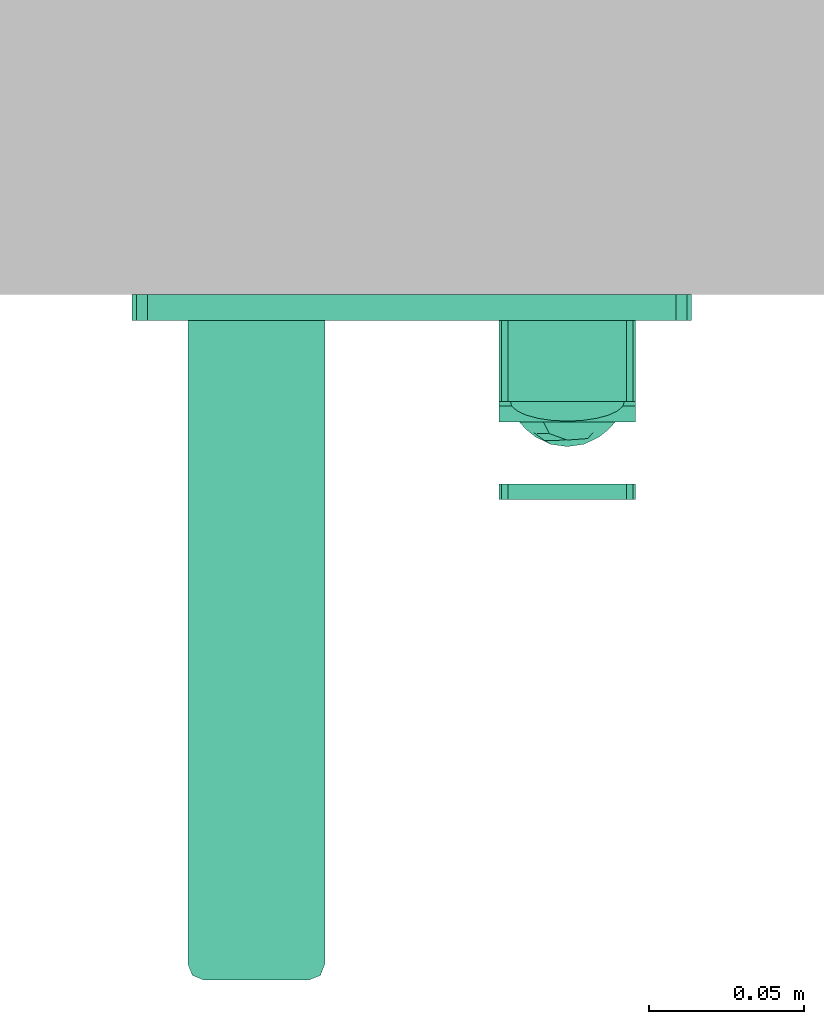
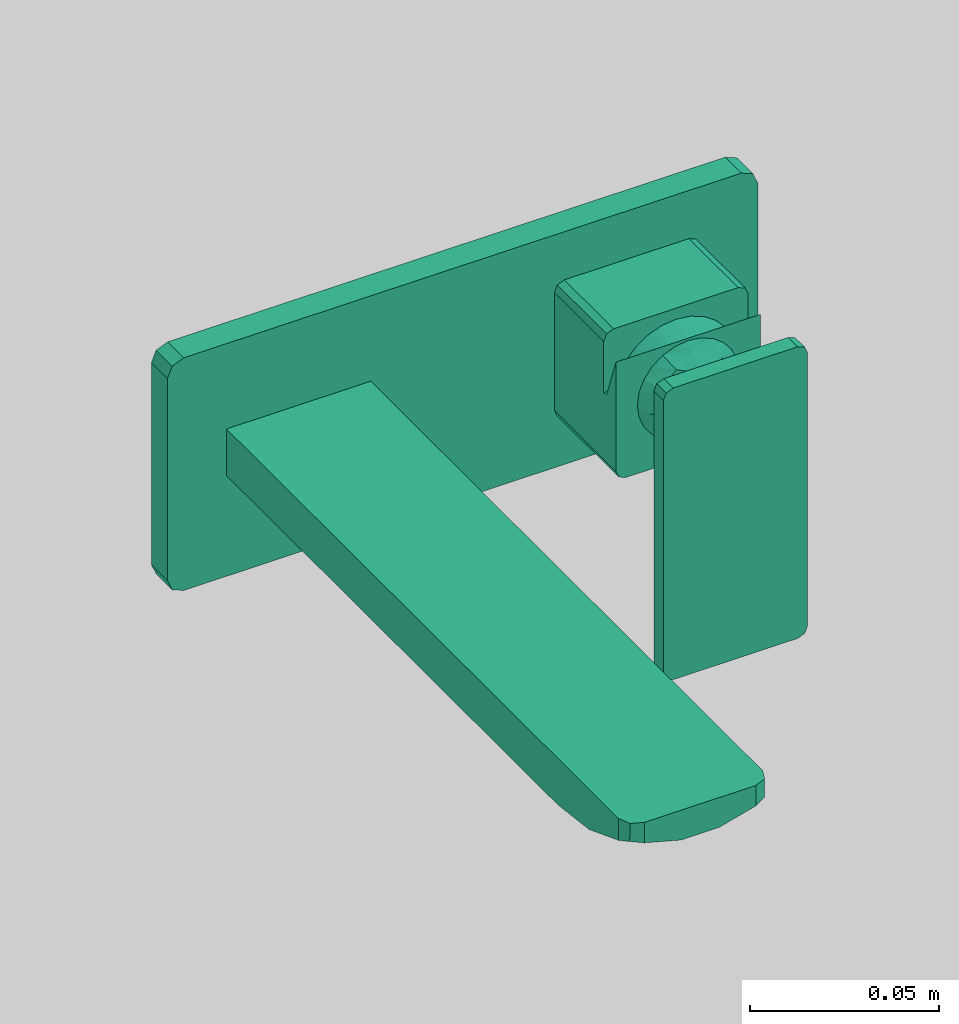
# One storey, part 2 of 2: 1 flow terminal.
"""IFC2X3 building model written with IfcOpenShell, lengths in millimetres."""

from ifc_helpers import new_model, entity, si_unit, converted_unit, derived_unit, direction, frame, origin, place, context, subcontext, project, spatial, faceted_brep, source, transform, mapped, material, type_object, type_shapes, element, save


model = new_model("IFC2X3")

# Units and contexts
model_context = context("Model", 3, precision=0.01, world=origin(), true_north=direction((6.12303176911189e-17, 1.0)))
body_context = subcontext(model_context, "Body", "Model", "MODEL_VIEW")
ifc_project = project(units=[si_unit("LENGTHUNIT", "METRE", prefix="MILLI"), si_unit("AREAUNIT", "SQUARE_METRE"), si_unit("VOLUMEUNIT", "CUBIC_METRE"), converted_unit("PLANEANGLEUNIT", "DEGREE", entity("IfcRatioMeasure", 0.0174532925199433), si_unit("PLANEANGLEUNIT", "RADIAN"), dimensions=[0, 0, 0, 0, 0, 0, 0]), si_unit("MASSUNIT", "GRAM", prefix="KILO"), derived_unit("MASSDENSITYUNIT", [(si_unit("MASSUNIT", "GRAM", prefix="KILO"), 1), (si_unit("LENGTHUNIT", "METRE"), -3)]), derived_unit("MOMENTOFINERTIAUNIT", [(si_unit("LENGTHUNIT", "METRE"), 4)]), si_unit("TIMEUNIT", "SECOND"), si_unit("FREQUENCYUNIT", "HERTZ"), si_unit("THERMODYNAMICTEMPERATUREUNIT", "DEGREE_CELSIUS"), derived_unit("THERMALTRANSMITTANCEUNIT", [(si_unit("MASSUNIT", "GRAM", prefix="KILO"), 1), (si_unit("THERMODYNAMICTEMPERATUREUNIT", "KELVIN"), -1), (si_unit("TIMEUNIT", "SECOND"), -3)]), derived_unit("VOLUMETRICFLOWRATEUNIT", [(si_unit("LENGTHUNIT", "METRE"), 3), (si_unit("TIMEUNIT", "SECOND"), -1)]), si_unit("ELECTRICCURRENTUNIT", "AMPERE"), si_unit("ELECTRICVOLTAGEUNIT", "VOLT"), si_unit("POWERUNIT", "WATT"), si_unit("FORCEUNIT", "NEWTON", prefix="KILO"), si_unit("ILLUMINANCEUNIT", "LUX"), si_unit("LUMINOUSFLUXUNIT", "LUMEN"), si_unit("LUMINOUSINTENSITYUNIT", "CANDELA"), derived_unit("USERDEFINED", [(si_unit("MASSUNIT", "GRAM", prefix="KILO"), -1), (si_unit("LENGTHUNIT", "METRE"), -2), (si_unit("TIMEUNIT", "SECOND"), 3), (si_unit("LUMINOUSFLUXUNIT", "LUMEN"), 1)]), derived_unit("LINEARVELOCITYUNIT", [(si_unit("LENGTHUNIT", "METRE"), 1), (si_unit("TIMEUNIT", "SECOND"), -1)]), si_unit("PRESSUREUNIT", "PASCAL"), derived_unit("USERDEFINED", [(si_unit("LENGTHUNIT", "METRE"), -2), (si_unit("MASSUNIT", "GRAM", prefix="KILO"), 1), (si_unit("TIMEUNIT", "SECOND"), -2)]), derived_unit("LINEARFORCEUNIT", [(si_unit("MASSUNIT", "GRAM", prefix="KILO"), 1), (si_unit("LENGTHUNIT", "METRE"), 1), (si_unit("TIMEUNIT", "SECOND"), -2), (si_unit("LENGTHUNIT", "METRE"), -1)]), derived_unit("PLANARFORCEUNIT", [(si_unit("MASSUNIT", "GRAM", prefix="KILO"), 1), (si_unit("LENGTHUNIT", "METRE"), 1), (si_unit("TIMEUNIT", "SECOND"), -2), (si_unit("LENGTHUNIT", "METRE"), -2)])], contexts=[model_context])

# Site, building, storey
site_placement = place(None, origin())
site = spatial("IfcSite", under=ifc_project, at=site_placement, Name="Default", CompositionType="ELEMENT")
building_placement = place(site_placement, origin())
building = spatial("IfcBuilding", under=site, at=building_placement, CompositionType="ELEMENT")
storey_placement = place(building_placement, origin())
storey = spatial("IfcBuildingStorey", under=building, at=storey_placement, Name="Level 1", CompositionType="ELEMENT", Elevation=0.0)

# Flow terminal
ifc_material = material(Name="Brushed Hard Graphite")
distribution_element_type = type_object("IfcDistributionElementType", Name="FFAS1304-101AL0BT0_REVIT:Acacia E In-Wall Vessel Mixer", material=ifc_material)
shared_shape = source(origin(), body_context, "Body", "Brep", [
    faceted_brep([(44.3128722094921, 2.0, 83.7374934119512), (46.8452722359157, 2.0, 82.6885389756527), (49.0198934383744, 2.0, 81.0198934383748), (50.6885389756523, 2.0, 78.8452722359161), (51.7374934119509, 2.0, 76.3128722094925), (52.0952722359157, 2.0, 73.595272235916), (51.7374934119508, 2.0, 70.8776722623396), (50.6885389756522, 2.0, 68.345272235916), (49.0198934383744, 2.0, 66.1706510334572), (46.8452722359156, 2.0, 64.5020054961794), (44.3128722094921, 2.0, 63.4530510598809), (41.5952722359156, 2.0, 63.095272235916), (38.8776722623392, 2.0, 63.4530510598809), (36.3452722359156, 2.0, 64.5020054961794), (34.1706510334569, 2.0, 66.1706510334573), (32.5020054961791, 2.0, 68.345272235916), (31.4530510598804, 2.0, 70.8776722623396), (31.0952722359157, 2.0, 73.595272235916), (31.4530510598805, 2.0, 76.3128722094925), (32.5020054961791, 2.0, 78.8452722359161), (34.1706510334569, 2.0, 81.0198934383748), (36.3452722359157, 2.0, 82.6885389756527), (38.8776722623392, 2.0, 83.7374934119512), (41.5952722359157, 2.0, 84.0952722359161), (50.6885389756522, 0.0, 68.345272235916), (51.7374934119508, 0.0, 70.8776722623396), (52.0952722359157, 0.0, 73.595272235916), (51.7374934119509, 0.0, 76.3128722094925), (50.6885389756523, 0.0, 78.8452722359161), (49.0198934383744, 0.0, 81.0198934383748), (46.8452722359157, 0.0, 82.6885389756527), (44.3128722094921, 0.0, 83.7374934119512), (41.5952722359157, 0.0, 84.0952722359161), (38.8776722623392, 0.0, 83.7374934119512), (36.3452722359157, 0.0, 82.6885389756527), (34.1706510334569, 0.0, 81.0198934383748), (32.5020054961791, 0.0, 78.8452722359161), (31.4530510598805, 0.0, 76.3128722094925), (31.0952722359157, 0.0, 73.595272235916), (31.4530510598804, 0.0, 70.8776722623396), (32.502005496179, 0.0, 68.345272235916), (34.1706510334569, 0.0, 66.1706510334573), (36.3452722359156, 0.0, 64.5020054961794), (38.8776722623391, 0.0, 63.4530510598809), (41.5952722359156, 0.0, 63.095272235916), (44.3128722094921, 0.0, 63.4530510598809), (46.8452722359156, 0.0, 64.5020054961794), (49.0198934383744, 0.0, 66.1706510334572)], [[[0, 1, 2, 3, 4, 5, 6, 7, 8, 9, 10, 11, 12, 13, 14, 15, 16, 17, 18, 19, 20, 21, 22, 23]], [[24, 25, 26, 27, 28, 29, 30, 31, 32, 33, 34, 35, 36, 37, 38, 39, 40, 41, 42, 43, 44, 45, 46, 47]], [[16, 39, 38, 17]], [[15, 40, 39, 16]], [[41, 14, 13, 42]], [[15, 14, 41, 40]], [[42, 13, 12, 43]], [[43, 12, 11, 44]], [[9, 46, 45, 10]], [[8, 47, 46, 9]], [[24, 7, 6, 25]], [[8, 7, 24, 47]], [[25, 6, 5, 26]], [[45, 44, 11, 10]], [[4, 27, 26, 5]], [[3, 28, 27, 4]], [[29, 2, 1, 30]], [[3, 2, 29, 28]], [[30, 1, 0, 31]], [[31, 0, 23, 32]], [[21, 34, 33, 22]], [[20, 35, 34, 21]], [[36, 19, 18, 37]], [[20, 19, 36, 35]], [[37, 18, 17, 38]], [[33, 32, 23, 22]]]),
    faceted_brep([(144.3128722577, 0.0, 63.4542602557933), (146.845272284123, 0.0, 64.5032146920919), (149.019893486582, 0.0, 66.1718602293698), (150.68853902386, 0.0, 68.3464814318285), (151.737493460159, 0.0, 70.878881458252), (152.095272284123, 0.0, 73.5964814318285), (151.737493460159, 0.0, 76.3140814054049), (150.68853902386, 0.0, 78.8464814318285), (149.019893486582, 0.0, 81.0211026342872), (146.845272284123, 0.0, 82.6897481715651), (144.3128722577, 0.0, 83.7387026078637), (141.595272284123, 0.0, 84.0964814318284), (138.877672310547, 0.0, 83.7387026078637), (136.345272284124, 0.0, 82.6897481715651), (134.170651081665, 0.0, 81.0211026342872), (132.502005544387, 0.0, 78.8464814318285), (131.453051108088, 0.0, 76.3140814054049), (131.095272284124, 0.0, 73.5964814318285), (131.453051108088, 0.0, 70.878881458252), (132.502005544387, 0.0, 68.3464814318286), (134.170651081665, 0.0, 66.1718602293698), (136.345272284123, 0.0, 64.503214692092), (138.877672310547, 0.0, 63.4542602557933), (141.595272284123, 0.0, 63.0964814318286), (144.3128722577, 2.0, 83.7387026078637), (146.845272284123, 2.0, 82.6897481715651), (149.019893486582, 2.0, 81.0211026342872), (150.68853902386, 2.0, 78.8464814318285), (151.737493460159, 2.0, 76.3140814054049), (152.095272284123, 2.0, 73.5964814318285), (151.737493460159, 2.0, 70.878881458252), (150.68853902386, 2.0, 68.3464814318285), (149.019893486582, 2.0, 66.1718602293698), (146.845272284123, 2.0, 64.5032146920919), (144.3128722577, 2.0, 63.4542602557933), (141.595272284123, 2.0, 63.0964814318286), (138.877672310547, 2.0, 63.4542602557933), (136.345272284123, 2.0, 64.503214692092), (134.170651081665, 2.0, 66.1718602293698), (132.502005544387, 2.0, 68.3464814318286), (131.453051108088, 2.0, 70.878881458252), (131.095272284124, 2.0, 73.5964814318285), (131.453051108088, 2.0, 76.3140814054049), (132.502005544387, 2.0, 78.8464814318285), (134.170651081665, 2.0, 81.0211026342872), (136.345272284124, 2.0, 82.6897481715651), (138.877672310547, 2.0, 83.7387026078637), (141.595272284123, 2.0, 84.0964814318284)], [[[0, 1, 2, 3, 4, 5, 6, 7, 8, 9, 10, 11, 12, 13, 14, 15, 16, 17, 18, 19, 20, 21, 22, 23]], [[24, 25, 26, 27, 28, 29, 30, 31, 32, 33, 34, 35, 36, 37, 38, 39, 40, 41, 42, 43, 44, 45, 46, 47]], [[40, 18, 17, 41]], [[39, 19, 18, 40]], [[21, 20, 38, 37]], [[20, 19, 39, 38]], [[37, 36, 22, 21]], [[23, 22, 36, 35]], [[34, 0, 23, 35]], [[33, 1, 0, 34]], [[3, 2, 32, 31]], [[32, 2, 1, 33]], [[31, 30, 4, 3]], [[5, 4, 30, 29]], [[28, 6, 5, 29]], [[27, 7, 6, 28]], [[9, 8, 26, 25]], [[27, 26, 8, 7]], [[10, 9, 25, 24]], [[11, 10, 24, 47]], [[46, 12, 11, 47]], [[45, 13, 12, 46]], [[15, 14, 44, 43]], [[45, 44, 14, 13]], [[16, 15, 43, 42]], [[17, 16, 42, 41]]]),
    faceted_brep([(35.4531762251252, 37.4102984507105, 89.9770344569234), (38.4875177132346, 37.400465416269, 90.8166244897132), (36.7641299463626, 40.5628030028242, 88.6314704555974), (32.2745920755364, 39.9159305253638, 86.8542029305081), (33.1048928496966, 34.5505035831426, 89.9722797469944), (41.5952722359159, 37.7942364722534, 90.922992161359), (41.5952722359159, 40.7837464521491, 89.2385075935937), (39.6083996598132, 40.6928804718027, 88.9888553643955), (37.2257317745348, 34.5505035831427, 91.5173266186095), (29.4673016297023, 34.5505035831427, 87.4951012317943), (26.519999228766, 34.5505035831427, 84.2267848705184), (28.4386852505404, 38.8883248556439, 84.0308795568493), (25.5257595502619, 37.5517170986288, 80.3585799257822), (23.7417011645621, 36.0, 76.0952722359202), (24.4307375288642, 34.5505035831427, 80.353353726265), (23.5155341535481, 35.2794953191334, 76.0952722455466), (41.5952722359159, 34.5505035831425, 92.0423022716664), (23.3184312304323, 34.5505035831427, 76.0952722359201), (19.5952722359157, 36.0, 76.0952722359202), (63.5952722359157, 36.0, 76.0952722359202), (59.4488433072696, 36.0, 76.0952722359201), (59.6750103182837, 35.2794953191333, 76.0952722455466), (19.5952722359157, 34.5505035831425, 76.0952722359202), (59.8721132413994, 34.5505035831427, 76.0952722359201), (63.5952722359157, 34.5505035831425, 76.0952722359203), (58.7598069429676, 34.5505035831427, 80.3533537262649), (57.6647849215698, 37.5517170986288, 80.3585799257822), (56.6705452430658, 34.5505035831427, 84.2267848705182), (54.7518592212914, 38.8883248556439, 84.0308795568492), (45.9648126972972, 34.5505035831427, 91.5173266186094), (44.7030267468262, 37.4004653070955, 90.8166245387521), (53.7232428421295, 34.5505035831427, 87.4951012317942), (50.9159523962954, 39.9159305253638, 86.8542029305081), (46.4264145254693, 40.5628030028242, 88.6314704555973), (47.7373682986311, 37.4102984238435, 89.9770344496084), (43.5821448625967, 40.6928804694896, 88.9888553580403), (50.0856516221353, 34.5505035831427, 89.9722797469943), (162.130806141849, 219.035533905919, 83.5952722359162), (158.595272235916, 220.499999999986, 83.5952722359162), (124.595272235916, 220.499999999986, 83.5952722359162), (121.059738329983, 219.035533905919, 83.5952722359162), (119.595272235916, 215.499999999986, 83.5952722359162), (119.595272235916, 8.50000000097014, 83.5952722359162), (163.595272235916, 8.50000000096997, 83.5952722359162), (163.595272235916, 215.499999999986, 83.5952722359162), (158.595272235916, 220.499999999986, 77.002925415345), (147.3937425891, 220.499999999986, 73.9791475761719), (135.7925823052, 220.499999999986, 73.9797087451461), (124.595272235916, 220.499999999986, 77.0029254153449), (121.019452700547, 218.994783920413, 77.7516253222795), (119.595272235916, 215.499999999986, 76.5357481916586), (119.595272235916, 199.985229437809, 70.6100427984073), (119.595272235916, 183.500000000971, 68.5952722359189), (119.595272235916, 8.50000000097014, 68.5952722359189), (6.59527223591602, 0.0, 111.095272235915), (3.05973832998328, 0.0, 109.630806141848), (1.59527223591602, 0.0, 106.095272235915), (1.59527223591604, 0.0, 41.0952722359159), (3.05973832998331, 0.0, 37.5597383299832), (6.59527223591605, 0.0, 36.0952722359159), (176.595272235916, 0.0, 36.0952722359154), (180.130806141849, 0.0, 37.5597383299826), (181.595272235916, 0.0, 41.0952722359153), (181.595272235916, 0.0, 106.095272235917), (180.130806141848, 0.0, 109.630806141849), (176.595272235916, 0.0, 111.095272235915), (163.595272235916, 8.50000000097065, 68.5952722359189), (163.595272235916, 183.500000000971, 68.5952722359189), (163.595272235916, 199.985229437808, 70.6100427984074), (163.595272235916, 215.499999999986, 76.5357481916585), (162.171091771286, 218.994783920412, 77.7516253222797), (1.59527223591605, 8.50000000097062, 106.095272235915), (3.05973832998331, 8.50000000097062, 109.630806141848), (6.59527223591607, 8.50000000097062, 111.095272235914), (20.4739518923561, 8.50000000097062, 94.7165925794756), (19.5952722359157, 8.50000000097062, 92.5952722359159), (19.5952722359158, 8.50000000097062, 54.5952722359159), (1.59527223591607, 8.50000000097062, 41.0952722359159), (22.5952722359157, 8.50000000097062, 95.5952722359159), (60.5952722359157, 8.50000000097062, 95.5952722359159), (176.595272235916, 8.50000000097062, 111.095272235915), (62.7165925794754, 8.50000000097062, 94.7165925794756), (181.595272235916, 8.50000000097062, 106.095272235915), (180.130806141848, 8.50000000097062, 109.630806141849), (181.595272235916, 8.50000000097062, 41.0952722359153), (176.595272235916, 8.50000000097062, 36.0952722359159), (180.130806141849, 8.50000000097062, 37.5597383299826), (152.875786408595, 8.50000000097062, 64.8610098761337), (141.595272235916, 8.50000000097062, 63.595272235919), (130.314758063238, 8.50000000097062, 64.8610098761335), (62.7165925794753, 8.50000000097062, 52.4739518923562), (60.5952722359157, 8.50000000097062, 51.5952722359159), (6.59527223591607, 8.50000000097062, 36.0952722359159), (20.4739518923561, 8.50000000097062, 52.4739518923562), (3.05973832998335, 8.50000000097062, 37.5597383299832), (22.5952722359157, 8.50000000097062, 51.5952722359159), (63.5952722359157, 8.50000000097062, 54.5952722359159), (63.5952722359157, 8.50000000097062, 92.5952722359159), (141.595272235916, 183.500000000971, 63.595272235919), (152.875786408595, 183.500000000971, 64.8610098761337), (130.314758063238, 183.500000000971, 64.8610098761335), (144.810569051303, 196.688299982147, 64.8923202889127), (143.305676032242, 195.84798629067, 64.6698079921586), (155.263469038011, 200.038127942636, 67.4014714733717), (141.595272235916, 195.556662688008, 64.5915671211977), (136.671506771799, 201.251147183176, 66.0185864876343), (127.927075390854, 200.038127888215, 67.4014714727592), (137.265721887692, 202.843241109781, 66.379319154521), (145.925964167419, 197.976339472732, 65.224250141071), (138.379975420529, 196.688299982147, 64.8923202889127), (139.88486843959, 195.847986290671, 64.6698079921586), (136.670806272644, 199.561745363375, 65.6176607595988), (137.264580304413, 197.976339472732, 65.224250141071), (146.519738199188, 199.561745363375, 65.6176607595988), (146.519037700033, 201.251147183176, 66.0185864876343), (145.92482258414, 202.843241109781, 66.379319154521), (144.808280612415, 204.144425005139, 66.6619738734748), (143.30527775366, 204.994600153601, 66.8408228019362), (141.595272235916, 205.290354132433, 66.901969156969), (139.885266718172, 204.994600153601, 66.8408228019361), (138.382263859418, 204.144425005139, 66.6619738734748), (141.595272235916, 196.170370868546, 62.3011770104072), (136.595272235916, 201.0, 63.5952722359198), (141.595272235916, 205.829629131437, 64.8893674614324), (146.595272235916, 201.0, 63.5952722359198), (141.595272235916, 201.0, 63.5952722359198), (22.5952722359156, 11.0, 95.5952722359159), (22.5952722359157, 34.5505035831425, 95.5952722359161), (20.473951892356, 34.5505035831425, 94.7165925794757), (20.4739518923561, 11.0, 94.7165925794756), (19.5952722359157, 34.5505035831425, 92.5952722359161), (19.5952722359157, 11.0, 92.5952722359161), (19.5952722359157, 11.0, 54.595272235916), (19.5952722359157, 41.0, 54.595272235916), (20.473951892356, 41.0, 52.4739518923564), (20.4739518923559, 11.0, 52.4739518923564), (22.5952722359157, 41.0, 51.595272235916), (22.5952722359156, 11.0, 51.5952722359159), (60.5952722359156, 11.0, 51.5952722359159), (60.5952722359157, 41.0, 51.595272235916), (62.7165925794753, 41.0, 52.4739518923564), (62.7165925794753, 11.0, 52.4739518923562), (63.5952722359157, 41.0, 54.595272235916), (63.5952722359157, 11.0, 54.595272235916), (63.5952722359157, 11.0, 92.5952722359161), (63.5952722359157, 34.5505035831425, 92.5952722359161), (62.7165925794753, 34.5505035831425, 94.7165925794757), (62.7165925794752, 11.0, 94.7165925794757), (60.5952722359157, 34.5505035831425, 95.5952722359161), (60.5952722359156, 11.0, 95.5952722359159), (63.5952722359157, 41.0, 89.8326593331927), (52.5497233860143, 41.0, 84.5497233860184), (49.3412389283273, 41.0, 87.0116801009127), (55.0116801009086, 41.0, 81.3412389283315), (45.6048796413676, 41.0, 88.5593307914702), (41.595272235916, 41.0, 89.0872056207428), (56.5593307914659, 41.0, 77.6048796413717), (57.0872056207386, 41.0, 73.5952722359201), (19.5952722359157, 41.0, 89.8326593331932), (56.5593307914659, 41.0, 69.5856648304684), (55.0116801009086, 41.0, 65.8493055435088), (52.5497233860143, 41.0, 62.6408210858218), (49.3412389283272, 41.0, 60.1788643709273), (45.6048796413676, 41.0, 58.63121368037), (41.5952722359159, 41.0, 58.1033388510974), (37.585664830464, 41.0, 58.63121368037), (33.8493055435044, 41.0, 60.1788643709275), (30.6408210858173, 41.0, 62.6408210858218), (26.1033388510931, 41.0, 73.5952722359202), (28.178864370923, 41.0, 65.8493055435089), (26.6312136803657, 41.0, 69.5856648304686), (26.6312136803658, 41.0, 77.604879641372), (37.5856648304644, 41.0, 88.5593307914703), (33.8493055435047, 41.0, 87.0116801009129), (30.6408210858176, 41.0, 84.5497233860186), (28.1788643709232, 41.0, 81.3412389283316), (33.2689114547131, 44.4548623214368, 82.69080253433), (41.5952722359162, 47.9409715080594, 77.9541711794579), (36.2251021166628, 48.22529212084, 73.5952722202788), (35.0578545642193, 46.3896266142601, 80.641002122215), (28.5005033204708, 43.6153793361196, 75.632052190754), (35.8318321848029, 44.8293351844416, 63.2090517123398), (41.5952722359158, 46.8819430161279, 64.8774743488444), (41.5952722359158, 44.0057982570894, 61.5650664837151), (31.3877347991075, 45.8964799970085, 75.6221178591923), (41.5952722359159, 44.0057982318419, 85.6254780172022), (41.5952722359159, 46.8819430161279, 82.3130701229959), (41.5952722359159, 42.5028991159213, 87.3563418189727), (31.0938753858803, 44.7043347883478, 67.7213295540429), (34.2863525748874, 47.0371557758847, 69.4341406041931), (41.5952722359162, 47.9409715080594, 69.2363732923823), (41.5952722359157, 42.5028991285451, 59.8342026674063), (41.5952722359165, 49.0, 73.5952722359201), (49.9216330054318, 44.4548623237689, 64.4997419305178), (47.3587123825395, 44.8293351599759, 83.9814927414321), (54.6900411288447, 43.6153793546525, 71.558492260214), (46.9654422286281, 48.2252921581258, 73.595272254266), (48.132689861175, 46.3896266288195, 66.5495423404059), (48.9041919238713, 47.0371557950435, 77.7564037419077), (52.0966690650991, 44.7043348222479, 79.4692148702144), (51.8028096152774, 45.8964800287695, 71.5684265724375)], [[[0, 1, 2]], [[0, 3, 4]], [[5, 6, 7]], [[1, 0, 8]], [[7, 2, 1]], [[0, 4, 8]], [[7, 1, 5]], [[3, 9, 4]], [[10, 11, 12]], [[12, 13, 14]], [[15, 14, 13]], [[3, 0, 2]], [[10, 9, 11]], [[16, 1, 8]], [[14, 10, 12]], [[15, 17, 14]], [[5, 1, 16]], [[11, 9, 3]], [[18, 15, 13]], [[19, 20, 21]], [[18, 22, 17]], [[23, 24, 19]], [[15, 18, 17]], [[25, 20, 26]], [[27, 26, 28]], [[23, 21, 25]], [[16, 29, 30]], [[25, 21, 20]], [[26, 27, 25]], [[16, 30, 5]], [[28, 31, 27]], [[32, 33, 34]], [[35, 5, 30]], [[30, 29, 34]], [[32, 34, 36]], [[36, 31, 32]], [[5, 35, 6]], [[30, 34, 33]], [[36, 34, 29]], [[35, 30, 33]], [[32, 31, 28]], [[37, 38, 39, 40, 41, 42, 43, 44]], [[39, 38, 45, 46, 47, 48]], [[40, 39, 49]], [[49, 39, 48]], [[49, 50, 41]], [[49, 41, 40]], [[42, 41, 50, 51, 52, 53]], [[54, 55, 56, 57, 58, 59, 60, 61, 62, 63, 64, 65]], [[44, 43, 66, 67, 68, 69]], [[44, 69, 70]], [[44, 70, 37]], [[70, 38, 37]], [[38, 70, 45]], [[71, 72, 73]], [[71, 73, 74]], [[74, 75, 71]], [[71, 75, 76]], [[76, 77, 71]], [[78, 74, 73]], [[79, 78, 73]], [[73, 80, 79]], [[81, 79, 80]], [[81, 80, 42]], [[80, 43, 42]], [[82, 43, 80]], [[80, 83, 82]], [[43, 82, 66]], [[84, 66, 82]], [[66, 84, 85]], [[86, 85, 84]], [[66, 85, 87]], [[88, 87, 85]], [[88, 85, 89]], [[85, 90, 89]], [[90, 85, 91]], [[92, 91, 85]], [[92, 77, 93]], [[92, 94, 77]], [[95, 91, 92]], [[93, 95, 92]], [[90, 53, 89]], [[90, 96, 53]], [[97, 53, 96]], [[97, 81, 42]], [[42, 53, 97]], [[77, 76, 93]], [[87, 88, 98, 99]], [[87, 99, 67, 66]], [[89, 53, 52, 100]], [[89, 100, 98, 88]], [[99, 98, 101]], [[102, 101, 98]], [[103, 68, 67]], [[104, 102, 98]], [[105, 106, 107]], [[103, 99, 108]], [[103, 69, 68]], [[108, 99, 101]], [[67, 99, 103]], [[109, 98, 100]], [[104, 98, 110]], [[106, 100, 52]], [[110, 98, 109]], [[111, 112, 106]], [[108, 113, 103]], [[100, 106, 112]], [[111, 106, 105]], [[109, 100, 112]], [[114, 103, 113]], [[114, 115, 103]], [[46, 116, 117]], [[116, 46, 115]], [[45, 70, 69]], [[46, 103, 115]], [[45, 103, 46]], [[103, 45, 69]], [[118, 46, 117]], [[47, 119, 120]], [[48, 106, 50]], [[107, 47, 120]], [[47, 106, 48]], [[46, 118, 47]], [[49, 48, 50]], [[51, 50, 106]], [[47, 118, 119]], [[107, 106, 47]], [[52, 51, 106]], [[121, 104, 110]], [[121, 110, 109]], [[112, 122, 109]], [[109, 122, 121]], [[122, 112, 111]], [[122, 105, 107]], [[122, 107, 120]], [[120, 123, 122]], [[123, 120, 119]], [[118, 123, 119]], [[105, 122, 111]], [[124, 123, 116]], [[115, 124, 116]], [[123, 118, 117]], [[123, 117, 116]], [[115, 114, 124]], [[121, 101, 102]], [[121, 102, 104]], [[124, 113, 108]], [[113, 124, 114]], [[101, 124, 108]], [[124, 101, 121]], [[123, 125, 122]], [[123, 124, 125]], [[121, 125, 124]], [[121, 122, 125]], [[54, 73, 72, 55]], [[72, 71, 56, 55]], [[57, 56, 71, 77]], [[57, 77, 94, 58]], [[94, 92, 59, 58]], [[60, 59, 92, 85]], [[60, 85, 86, 61]], [[86, 84, 62, 61]], [[63, 62, 84, 82]], [[63, 82, 83, 64]], [[83, 80, 65, 64]], [[54, 65, 80, 73]], [[78, 126, 127, 128, 129, 74]], [[129, 128, 130, 131, 75, 74]], [[76, 132, 133, 134, 135, 93]], [[135, 134, 136, 137, 95, 93]], [[91, 138, 139, 140, 141, 90]], [[141, 140, 142, 143, 96, 90]], [[97, 144, 145, 146, 147, 81]], [[147, 146, 148, 149, 79, 81]], [[150, 151, 152]], [[151, 150, 153]], [[152, 154, 150]], [[150, 154, 155]], [[156, 153, 150]], [[157, 156, 150]], [[157, 150, 142]], [[155, 158, 150]], [[159, 157, 142]], [[160, 159, 142]], [[161, 160, 142]], [[139, 161, 142]], [[142, 140, 139]], [[161, 139, 162]], [[163, 162, 139]], [[164, 163, 139]], [[164, 139, 136]], [[136, 165, 164]], [[136, 166, 165]], [[167, 166, 136]], [[136, 133, 167]], [[134, 133, 136]], [[158, 168, 133]], [[167, 133, 169]], [[170, 169, 133]], [[170, 133, 168]], [[171, 168, 158]], [[155, 172, 158]], [[173, 158, 172]], [[158, 173, 174]], [[174, 175, 158]], [[175, 171, 158]], [[75, 131, 130, 22, 18, 158, 133, 132, 76]], [[91, 95, 137, 136, 139, 138]], [[96, 143, 142, 150, 19, 24, 145, 144, 97]], [[126, 78, 79, 149, 148, 127]], [[173, 176, 174]], [[176, 175, 174]], [[177, 178, 179]], [[180, 175, 176]], [[180, 168, 171]], [[181, 182, 183]], [[176, 184, 180]], [[176, 185, 186]], [[186, 179, 176]], [[185, 176, 173]], [[173, 172, 187]], [[180, 171, 175]], [[188, 169, 170]], [[182, 189, 190]], [[180, 188, 170]], [[188, 189, 182]], [[187, 185, 173]], [[164, 165, 191]], [[184, 179, 178]], [[166, 167, 181]], [[172, 155, 187]], [[170, 168, 180]], [[183, 191, 166]], [[167, 169, 181]], [[181, 169, 188]], [[166, 191, 165]], [[190, 189, 178]], [[188, 184, 189]], [[190, 178, 192]], [[188, 180, 184]], [[184, 178, 189]], [[192, 178, 177]], [[181, 183, 166]], [[188, 182, 181]], [[177, 179, 186]], [[184, 176, 179]], [[162, 193, 161]], [[193, 160, 161]], [[194, 186, 185]], [[195, 160, 193]], [[195, 157, 159]], [[190, 196, 197]], [[152, 187, 154]], [[183, 182, 193]], [[177, 198, 196]], [[162, 163, 191]], [[162, 183, 193]], [[163, 164, 191]], [[199, 153, 156]], [[186, 198, 177]], [[195, 199, 156]], [[199, 198, 186]], [[185, 187, 152]], [[155, 154, 187]], [[200, 197, 196]], [[152, 151, 194]], [[193, 200, 195]], [[157, 195, 156]], [[191, 183, 162]], [[194, 153, 199]], [[194, 151, 153]], [[195, 159, 160]], [[199, 195, 200]], [[199, 200, 198]], [[177, 196, 192]], [[182, 197, 193]], [[200, 196, 198]], [[192, 196, 190]], [[194, 185, 152]], [[199, 186, 194]], [[190, 197, 182]], [[200, 193, 197]], [[26, 20, 19, 150, 158, 18, 13, 12, 11, 3, 2, 7, 6, 35, 33, 32, 28]], [[148, 146, 145, 24, 23, 25, 27, 31, 36, 29, 16, 8, 4, 9, 10, 14, 17, 22, 130, 128, 127]], [[19, 21, 23]]]),
    faceted_brep([(63.5952722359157, 61.0, 92.5952722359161), (62.7165925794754, 61.0, 94.7165925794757), (60.5952722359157, 61.0, 95.5952722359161), (22.5952722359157, 61.0, 95.5952722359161), (20.4739518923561, 61.0, 94.7165925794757), (19.5952722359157, 61.0, 92.5952722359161), (19.5952722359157, 61.0, 4.59527223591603), (20.4739518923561, 61.0, 2.47395189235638), (22.5952722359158, 61.0, 1.59527223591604), (60.5952722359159, 61.0, 1.59527223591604), (62.7165925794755, 61.0, 2.47395189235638), (63.5952722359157, 61.0, 4.59527223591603), (19.5952722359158, 66.0, 4.59527223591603), (20.4739518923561, 66.0, 2.47395189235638), (22.5952722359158, 66.0, 1.59527223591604), (60.5952722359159, 66.0, 1.59527223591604), (62.7165925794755, 66.0, 2.47395189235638), (63.5952722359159, 66.0, 4.59527223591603), (19.5952722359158, 66.0, 92.5952722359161), (20.4739518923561, 66.0, 94.7165925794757), (22.5952722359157, 66.0, 95.5952722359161), (60.5952722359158, 66.0, 95.5952722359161), (62.7165925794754, 66.0, 94.7165925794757), (63.5952722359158, 66.0, 92.5952722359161)], [[[0, 1, 2, 3, 4, 5, 6, 7, 8, 9, 10, 11]], [[6, 12, 13, 7]], [[13, 14, 8, 7]], [[9, 8, 14, 15]], [[9, 15, 16, 10]], [[16, 17, 11, 10]], [[18, 19, 20, 21, 22, 23, 17, 16, 15, 14, 13, 12]], [[3, 2, 21, 20]], [[3, 20, 19, 4]], [[19, 18, 5, 4]], [[6, 5, 18, 12]], [[0, 11, 17, 23]], [[0, 23, 22, 1]], [[22, 21, 2, 1]]]),
])
type_shapes(distribution_element_type, [shared_shape])
flow_terminal_placement = place(storey_placement, frame((-826.197659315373, 3034.83382976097, 2847.40945242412), z_axis=(0.0, 0.0, 1.0), x_axis=(-1.0, 0.0, 0.0)))
element("IfcFlowTerminal", 1, at=flow_terminal_placement, inside=storey, type_object=distribution_element_type, material=ifc_material, Name="FFAS1304-101AL0BT0_REVIT:Acacia E In-Wall Vessel Mixer", ObjectType="FFAS1304-101AL0BT0_REVIT:Acacia E In-Wall Vessel Mixer", context=body_context, shape_type="MappedRepresentation", body=[
    mapped(shared_shape, transform((0.0, 0.0, 0.0), scale=1.0)),
])

save(model, "model.ifc")
